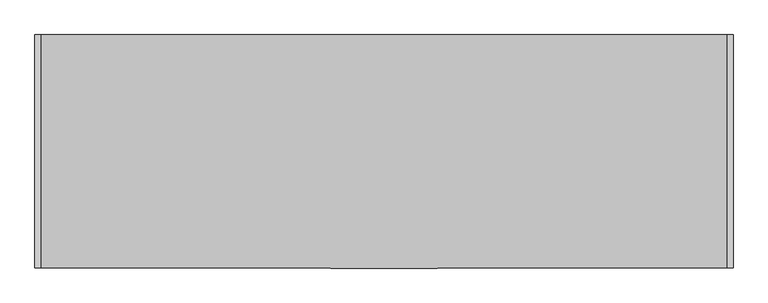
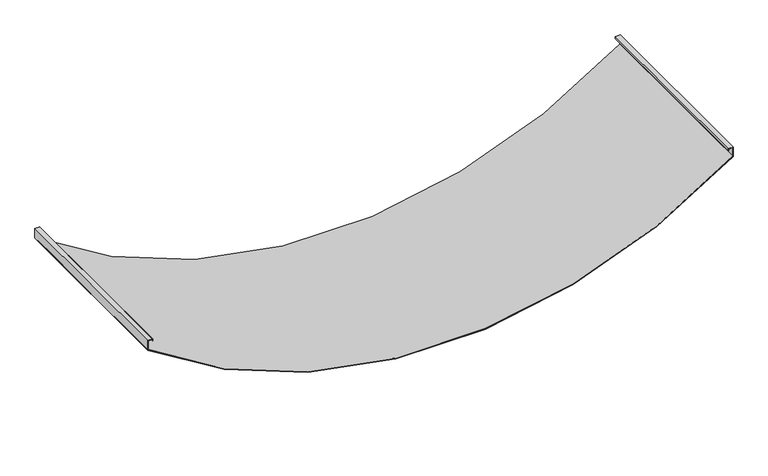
"""IFC4 building model written with IfcOpenShell, lengths in millimetres: proxy geometry, durlum_S7_DOMUS_panel : durlum_S7_DOMUS_panel."""

import ifcopenshell
import ifcopenshell.guid

model = None  # the IFC model being written
_history = None  # IfcOwnerHistory: only IFC2X3 demands one
_inside = {}  # id of a spatial element -> (the spatial element, [elements in it])
_under = {}  # id of a project, library or spatial element -> (it, [spatial elements below it])
_declared = {}  # id of a project -> (the project, [libraries it declares])
_typed = {}  # id of a type object -> (the type object, [elements of that type])
_made_of = {}  # id of a material, layer set ... -> (it, [elements and type objects made of it])


def new_model(schema):
    """Start an empty IFC model of exactly this schema.

    Asked for "IFC4X3", IfcOpenShell would pick the latest addendum, in which some entities
    have other attributes; the version numbers below select the first issue.
    IFC2X3 requires an IfcOwnerHistory on every rooted entity: one is made here for all.
    """
    global model, _history
    if schema == "IFC4X3":
        model = ifcopenshell.file(schema_version=(4, 3, 0, 0))
    else:
        model = ifcopenshell.file(schema=schema)
    _inside.clear()
    _under.clear()
    _declared.clear()
    _typed.clear()
    _made_of.clear()
    _history = None
    if model.schema == "IFC2X3":
        org = make("IfcOrganization", Name="unknown")
        user = make(
            "IfcPersonAndOrganization",
            ThePerson=make("IfcPerson", FamilyName="unknown"),
            TheOrganization=org,
        )
        app = make(
            "IfcApplication",
            ApplicationDeveloper=org,
            Version="unknown",
            ApplicationFullName="unknown",
            ApplicationIdentifier="unknown",
        )
        _history = make(
            "IfcOwnerHistory",
            OwningUser=user,
            OwningApplication=app,
            ChangeAction="ADDED",
            CreationDate=0,
        )
    return model


def make(cls, **values):
    """One entity of the class cls with the attributes given. An attribute that is None is left unset."""
    return model.create_entity(
        cls, **{name: value for name, value in values.items() if value is not None}
    )


def rooted(cls, **values):
    """An entity with a GlobalId (a new one), such as an element, a storey or a relation."""
    return make(cls, GlobalId=ifcopenshell.guid.new(), OwnerHistory=_history, **values)


def si_unit(unit_type, name, prefix=None):
    """IfcSIUnit, for example si_unit("LENGTHUNIT", "METRE", prefix="MILLI")."""
    return make("IfcSIUnit", UnitType=unit_type, Prefix=prefix, Name=name)


def assignment(units):
    """IfcUnitAssignment: the units of a project."""
    return None if units is None else make("IfcUnitAssignment", Units=units)


def point(xyz):
    """IfcCartesianPoint."""
    return None if xyz is None else make("IfcCartesianPoint", Coordinates=xyz)


def direction(xyz):
    """IfcDirection."""
    return None if xyz is None else make("IfcDirection", DirectionRatios=xyz)


def frame(location, z_axis=None, x_axis=None):
    """IfcAxis2Placement3D, a coordinate frame: its origin and axes. An axis left out is left unset."""
    return make(
        "IfcAxis2Placement3D",
        Location=point(location),
        Axis=direction(z_axis),
        RefDirection=direction(x_axis),
    )


def frame_2d(location, x_axis=None):
    """IfcAxis2Placement2D, a coordinate frame in the plane: its origin and x axis."""
    return make(
        "IfcAxis2Placement2D", Location=point(location), RefDirection=direction(x_axis)
    )


def origin():
    """The frame at (0, 0, 0) with its axes left unset."""
    return frame((0.0, 0.0, 0.0))


def place(relative_to, where):
    """IfcLocalPlacement: puts the frame where relative to a parent placement (None: the world)."""
    return make(
        "IfcLocalPlacement", PlacementRelTo=relative_to, RelativePlacement=where
    )


def context(
    kind, dimensions, precision=None, world=None, true_north=None, identifier=None
):
    """IfcGeometricRepresentationContext, for example the 3D "Model" context."""
    return make(
        "IfcGeometricRepresentationContext",
        ContextIdentifier=identifier,
        ContextType=kind,
        CoordinateSpaceDimension=dimensions,
        Precision=precision,
        WorldCoordinateSystem=world,
        TrueNorth=true_north,
    )


def project(units=None, contexts=None):
    """IfcProject with its units and contexts."""
    return rooted(
        "IfcProject",
        Name="project",
        RepresentationContexts=contexts,
        UnitsInContext=assignment(units),
    )


def spatial(cls, under=None, at=None, **own):
    """A site, building, storey or space (cls), placed at a placement, below another one or the project."""
    s = rooted(cls, ObjectPlacement=at, **own)
    if under is not None:
        _under.setdefault(under.id(), (under, []))[1].append(s)
    return s


def polyline(points):
    """IfcPolyline through the points."""
    return make("IfcPolyline", Points=[point(p) for p in points])


def circle_curve(where, radius):
    """IfcCircle in the frame where."""
    return make("IfcCircle", Position=where, Radius=radius)


def trimmed(basis, trim1, trim2, sense, master):
    """IfcTrimmedCurve: the piece of a basis curve between two trims."""
    return make(
        "IfcTrimmedCurve",
        BasisCurve=basis,
        Trim1=trim1,
        Trim2=trim2,
        SenseAgreement=sense,
        MasterRepresentation=master,
    )


def segment(curve, same_sense, transition):
    """IfcCompositeCurveSegment."""
    return make(
        "IfcCompositeCurveSegment",
        Transition=transition,
        SameSense=same_sense,
        ParentCurve=curve,
    )


def composite_curve(segments, self_intersect=None):
    """IfcCompositeCurve: segments joined end to end."""
    return make("IfcCompositeCurve", Segments=segments, SelfIntersect=self_intersect)


def outline(outer, holes=None, kind="AREA"):
    """IfcArbitraryClosedProfileDef: a profile drawn as a closed curve; with holes, ...WithVoids."""
    if holes is None:
        return make("IfcArbitraryClosedProfileDef", ProfileType=kind, OuterCurve=outer)
    return make(
        "IfcArbitraryProfileDefWithVoids",
        ProfileType=kind,
        OuterCurve=outer,
        InnerCurves=holes,
    )


def extrude(swept, where, along, depth):
    """IfcExtrudedAreaSolid: the profile swept, set in the frame where, extruded along a direction by depth."""
    return make(
        "IfcExtrudedAreaSolid",
        SweptArea=swept,
        Position=where,
        ExtrudedDirection=direction(along),
        Depth=depth,
    )


def shape(context_of_items, identifier, shape_type, items):
    """IfcShapeRepresentation: the items that make up one representation, for example the "Body"."""
    return make(
        "IfcShapeRepresentation",
        ContextOfItems=context_of_items,
        RepresentationIdentifier=identifier,
        RepresentationType=shape_type,
        Items=items,
    )


def source(mapping_origin, context_of_items, identifier, shape_type, items):
    """IfcRepresentationMap: a shape defined once, which mapped items show again and again."""
    return make(
        "IfcRepresentationMap",
        MappingOrigin=mapping_origin,
        MappedRepresentation=shape(context_of_items, identifier, shape_type, items),
    )


def transform(
    local_origin,
    x_axis=None,
    y_axis=None,
    z_axis=None,
    scale=None,
    scale2=None,
    scale3=None,
    uniform=True,
):
    """IfcCartesianTransformationOperator3D, or its non-uniform kind. x_axis, y_axis, z_axis: its Axis1, 2, 3."""
    if uniform:
        return make(
            "IfcCartesianTransformationOperator3D",
            Axis1=direction(x_axis),
            Axis2=direction(y_axis),
            LocalOrigin=point(local_origin),
            Scale=scale,
            Axis3=direction(z_axis),
        )
    return make(
        "IfcCartesianTransformationOperator3DnonUniform",
        Axis1=direction(x_axis),
        Axis2=direction(y_axis),
        LocalOrigin=point(local_origin),
        Scale=scale,
        Axis3=direction(z_axis),
        Scale2=scale2,
        Scale3=scale3,
    )


def mapped(mapping_source, mapping_target):
    """IfcMappedItem: shows the shape of a source again, moved by a transform."""
    return make(
        "IfcMappedItem", MappingSource=mapping_source, MappingTarget=mapping_target
    )


def made_of(thing, what):
    """Note that an element or type object is made of a material, layer set ...; save() writes the relation."""
    if what is not None:
        _made_of.setdefault(what.id(), (what, []))[1].append(thing)
    return thing


def element(
    cls,
    number,
    at=None,
    inside=None,
    cuts=None,
    type_object=None,
    material=None,
    context=None,
    identifier="Body",
    shape_type=None,
    held_by="IfcProductDefinitionShape",
    body=None,
    shapes=None,
    **own,
):
    """One element of the class cls, such as IfcWall. Its Tag is "e" and its number.

    at: its placement. inside: the storey or other place that contains it. cuts: it is an
    opening in that element (IfcRelVoidsElement). A single representation is given by context,
    identifier, shape_type and body (its items); several are given by shapes. held_by: the class
    of the entity that holds the representations. save() writes the other relations.
    """
    e = rooted(cls, Tag="e%d" % number, ObjectPlacement=at, **own)
    if body is not None:
        shapes = [shape(context, identifier, shape_type, body)]
    if shapes is not None:
        e.Representation = make(held_by, Representations=shapes)
    if inside is not None:
        _inside.setdefault(inside.id(), (inside, []))[1].append(e)
    if cuts is not None:
        rooted(
            "IfcRelVoidsElement", RelatingBuildingElement=cuts, RelatedOpeningElement=e
        )
    if type_object is not None:
        _typed.setdefault(type_object.id(), (type_object, []))[1].append(e)
    return made_of(e, material)


def aggregate(whole, parts):
    """IfcRelAggregates: a whole, such as a stair, and the parts it consists of."""
    return rooted("IfcRelAggregates", RelatingObject=whole, RelatedObjects=parts)


def save(model, path):
    """Write the relations noted so far, then the file.

    IfcRelAggregates (storeys below a building ...), IfcRelContainedInSpatialStructure (elements
    in a storey), IfcRelDefinesByType, IfcRelAssociatesMaterial and IfcRelDeclares: one each for
    every whole, place, type object, material and project.
    """
    for whole, parts in _under.values():
        aggregate(whole, parts)
    for where, things in _inside.values():
        rooted(
            "IfcRelContainedInSpatialStructure",
            RelatedElements=things,
            RelatingStructure=where,
        )
    for kind, things in _typed.values():
        rooted("IfcRelDefinesByType", RelatedObjects=things, RelatingType=kind)
    for what, things in _made_of.values():
        rooted("IfcRelAssociatesMaterial", RelatedObjects=things, RelatingMaterial=what)
    for by, libraries in _declared.values():
        rooted("IfcRelDeclares", RelatingContext=by, RelatedDefinitions=libraries)
    model.write(path)


def generic_models_696bcd8b(model_context):
    return source(origin(), model_context, "Body", "SweptSolid", [
        extrude(outline(composite_curve([segment(polyline([(0.4984323, 895.0), (1.7508749, 895.0)]), True, "CONTINUOUS"), segment(trimmed(circle_curve(frame_2d((1188.0266667, 0.0)), 1486.0266667), [point((1.7508749, 895.0))], [point((1.7508749, -895.0))], True, "CARTESIAN"), True, "CONTINUOUS"), segment(polyline([(1.7508749, -895.0), (0.4984323, -895.0)]), True, "CONTINUOUS"), segment(trimmed(circle_curve(frame_2d((1188.0266667, 0.0)), 1487.0266667), [point((0.4984323, -895.0))], [point((0.4984323, 895.0))], False, "CARTESIAN"), True, "CONTINUOUS")], self_intersect=False)), frame((0.0, -299.75, 0.0), z_axis=(0.0, 1.0, 0.0), x_axis=(0.0, 0.0, 1.0)), (0.0, 0.0, 1.0), 599.5),
        extrude(outline(polyline([(31.0, -896.0), (0.0, -896.0), (0.0, -895.0), (30.0, -895.0), (30.0, -882.0), (24.5, -882.0), (24.5, -881.0), (31.0, -881.0), (31.0, -896.0)])), frame((0.0, -299.75, 0.0), z_axis=(0.0, 1.0, 0.0), x_axis=(0.0, 0.0, 1.0)), (0.0, 0.0, 1.0), 599.5),
        extrude(outline(polyline([(31.0, 896.0), (31.0, 881.0), (24.5, 881.0), (24.5, 882.0), (30.0, 882.0), (30.0, 895.0), (0.0, 895.0), (0.0, 896.0), (31.0, 896.0)])), frame((0.0, -299.75, 0.0), z_axis=(0.0, 1.0, 0.0), x_axis=(0.0, 0.0, 1.0)), (0.0, 0.0, 1.0), 599.5),
        extrude(outline(composite_curve([segment(trimmed(circle_curve(frame_2d((1188.0266667, 0.0)), 1488.0266667), [point((0.0, -896.0))], [point((0.0, 896.0))], False, "CARTESIAN"), True, "CONTINUOUS"), segment(polyline([(0.0, 896.0), (1.2527592, 896.0)]), True, "CONTINUOUS"), segment(trimmed(circle_curve(frame_2d((1188.0266667, 0.0)), 1487.0266667), [point((1.2527592, 896.0))], [point((1.2527592, -896.0))], True, "CARTESIAN"), True, "CONTINUOUS"), segment(polyline([(1.2527592, -896.0), (0.0, -896.0)]), True, "CONTINUOUS")], self_intersect=False)), frame((0.0, -299.75, 0.0), z_axis=(0.0, 1.0, 0.0), x_axis=(0.0, 0.0, 1.0)), (0.0, 0.0, 1.0), 599.5),
    ])


if __name__ == "__main__":
    model = new_model("IFC4")
    model_context = context("Model", 3, world=origin())
    ifc_project = project(units=[si_unit("LENGTHUNIT", "METRE", prefix="MILLI")], contexts=[model_context])
    site = spatial("IfcSite", under=ifc_project)
    building = spatial("IfcBuilding", under=site)
    placement = place(None, origin())
    generic_models_shape = generic_models_696bcd8b(model_context)
    element("IfcBuildingElementProxy", 1, Name="durlum_S7_DOMUS_panel : durlum_S7_DOMUS_panel", ObjectType="durlum_S7_DOMUS_panel : durlum_S7_DOMUS_panel", at=placement, inside=building, context=model_context, shape_type="MappedRepresentation", body=[
        mapped(generic_models_shape, transform((0.0, 0.0, 0.0), x_axis=(1.0, 0.0, 0.0), y_axis=(0.0, 1.0, 0.0), z_axis=(0.0, 0.0, 1.0))),
    ])
    save(model, "model.ifc")
